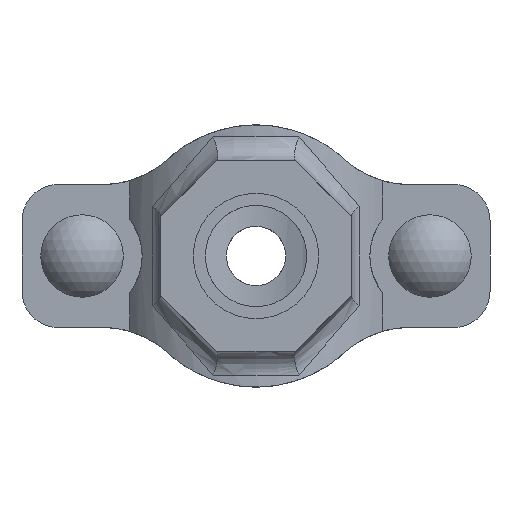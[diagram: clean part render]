
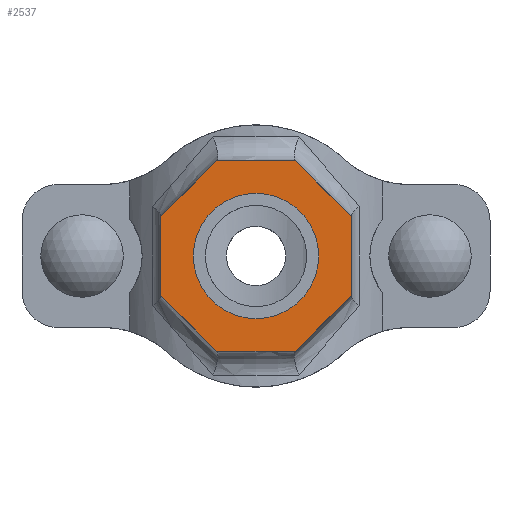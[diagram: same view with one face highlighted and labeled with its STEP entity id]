
A CAD part, front view. The second image highlights one B-rep face of the part: STEP entity #2537.
In plain terms, the highlighted planar face has unit normal (0, -1, 0) as drawn and (0, 1, 0) by its records, which use the part's own axes.
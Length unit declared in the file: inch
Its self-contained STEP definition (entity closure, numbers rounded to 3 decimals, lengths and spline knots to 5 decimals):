
#186=FACE_BOUND('',#457,.T.);
#305=FACE_OUTER_BOUND('',#456,.T.);
#456=EDGE_LOOP('',(#2126,#2127,#2128,#2129,#2130,#2131,#2132,#2133));
#457=EDGE_LOOP('',(#2134));
#594=LINE('',#4577,#780);
#597=LINE('',#4582,#783);
#599=LINE('',#4586,#785);
#601=LINE('',#4590,#787);
#637=LINE('',#4963,#823);
#639=LINE('',#4967,#825);
#641=LINE('',#4971,#827);
#643=LINE('',#4974,#829);
#780=VECTOR('',#3278,0.3937);
#783=VECTOR('',#3283,0.3937);
#785=VECTOR('',#3287,0.3937);
#787=VECTOR('',#3291,0.3937);
#823=VECTOR('',#3415,0.3937);
#825=VECTOR('',#3419,0.3937);
#827=VECTOR('',#3423,0.3937);
#829=VECTOR('',#3427,0.3937);
#915=CIRCLE('',#2798,0.6575);
#1097=VERTEX_POINT('',#4574);
#1098=VERTEX_POINT('',#4576);
#1099=VERTEX_POINT('',#4580);
#1100=VERTEX_POINT('',#4584);
#1101=VERTEX_POINT('',#4588);
#1132=VERTEX_POINT('',#4812);
#1156=VERTEX_POINT('',#4962);
#1157=VERTEX_POINT('',#4966);
#1158=VERTEX_POINT('',#4970);
#1408=EDGE_CURVE('',#1098,#1097,#594,.T.);
#1411=EDGE_CURVE('',#1097,#1099,#597,.T.);
#1413=EDGE_CURVE('',#1099,#1100,#599,.T.);
#1415=EDGE_CURVE('',#1100,#1101,#601,.T.);
#1457=EDGE_CURVE('',#1132,#1132,#915,.T.);
#1489=EDGE_CURVE('',#1156,#1098,#637,.T.);
#1491=EDGE_CURVE('',#1157,#1156,#639,.T.);
#1493=EDGE_CURVE('',#1158,#1157,#641,.T.);
#1495=EDGE_CURVE('',#1101,#1158,#643,.T.);
#2126=ORIENTED_EDGE('',*,*,#1495,.T.);
#2127=ORIENTED_EDGE('',*,*,#1493,.T.);
#2128=ORIENTED_EDGE('',*,*,#1491,.T.);
#2129=ORIENTED_EDGE('',*,*,#1489,.T.);
#2130=ORIENTED_EDGE('',*,*,#1408,.T.);
#2131=ORIENTED_EDGE('',*,*,#1411,.T.);
#2132=ORIENTED_EDGE('',*,*,#1413,.T.);
#2133=ORIENTED_EDGE('',*,*,#1415,.T.);
#2134=ORIENTED_EDGE('',*,*,#1457,.T.);
#2278=PLANE('',#2821);
#2537=ADVANCED_FACE('',(#305,#186),#2278,.T.);
#2798=AXIS2_PLACEMENT_3D('',#4813,#3361,#3362);
#2821=AXIS2_PLACEMENT_3D('',#4975,#3428,#3429);
#3278=DIRECTION('',(0.,0.,1.));
#3283=DIRECTION('',(0.707,0.,0.707));
#3287=DIRECTION('',(1.,0.,0.));
#3291=DIRECTION('',(0.707,0.,-0.707));
#3361=DIRECTION('center_axis',(0.,-1.,0.));
#3362=DIRECTION('ref_axis',(-1.,0.,0.));
#3415=DIRECTION('',(-0.707,0.,0.707));
#3419=DIRECTION('',(-1.,0.,0.));
#3423=DIRECTION('',(-0.707,0.,-0.707));
#3427=DIRECTION('',(0.,0.,-1.));
#3428=DIRECTION('center_axis',(0.,1.,0.));
#3429=DIRECTION('ref_axis',(0.,0.,1.));
#4574=CARTESIAN_POINT('',(-1.,2.53,0.41421));
#4576=CARTESIAN_POINT('',(-1.,2.53,-0.41421));
#4577=CARTESIAN_POINT('',(-1.,2.53,0.41421));
#4580=CARTESIAN_POINT('',(-0.41421,2.53,1.));
#4582=CARTESIAN_POINT('',(-0.41421,2.53,1.));
#4584=CARTESIAN_POINT('',(0.41421,2.53,1.));
#4586=CARTESIAN_POINT('',(0.41421,2.53,1.));
#4588=CARTESIAN_POINT('',(1.,2.53,0.41421));
#4590=CARTESIAN_POINT('',(1.,2.53,0.41421));
#4812=CARTESIAN_POINT('',(0.6575,2.53,0.));
#4813=CARTESIAN_POINT('Origin',(0.,2.53,0.));
#4962=CARTESIAN_POINT('',(-0.41421,2.53,-1.));
#4963=CARTESIAN_POINT('',(-1.,2.53,-0.41421));
#4966=CARTESIAN_POINT('',(0.41421,2.53,-1.));
#4967=CARTESIAN_POINT('',(-0.41421,2.53,-1.));
#4970=CARTESIAN_POINT('',(1.,2.53,-0.41421));
#4971=CARTESIAN_POINT('',(0.41421,2.53,-1.));
#4974=CARTESIAN_POINT('',(1.,2.53,-0.41421));
#4975=CARTESIAN_POINT('Origin',(0.,2.53,0.));
